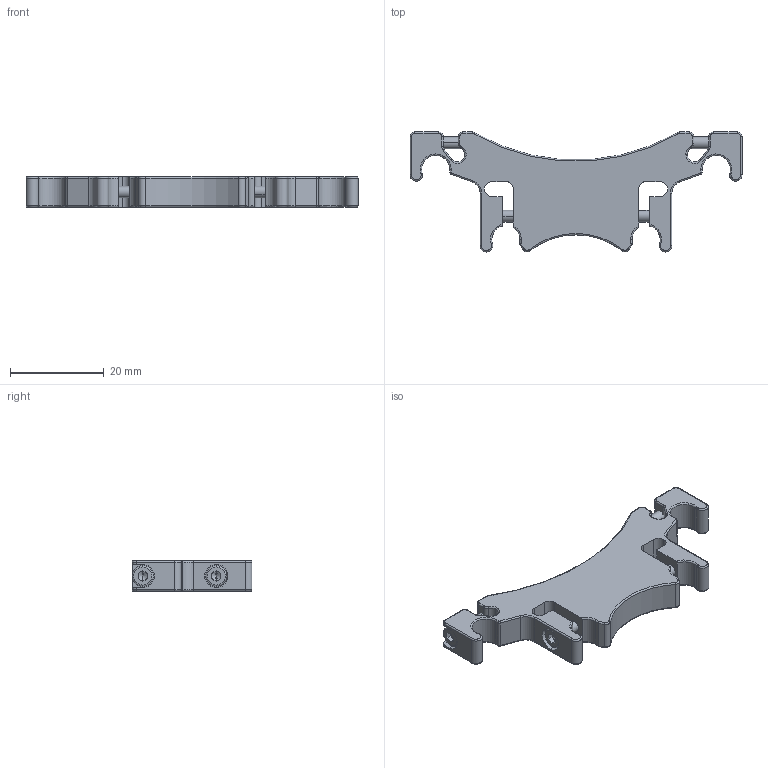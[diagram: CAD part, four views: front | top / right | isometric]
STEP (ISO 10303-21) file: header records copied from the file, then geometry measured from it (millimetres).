
FILE_DESCRIPTION (( 'STEP AP203' ), '1' );
FILE_NAME ('CSABQ-2.STEP', '2024-06-19T06:22:05', ( '' ), ( '' ), 'SwSTEP 2.0', 'SolidWorks 2021', '' );
FILE_SCHEMA (( 'CONFIG_CONTROL_DESIGN' ));
Length unit declared in the file: millimetre
Products named in the file (1): CSABQ-2
Bounding box: 71 x 25.65 x 6.5 mm (x, y, z)
Surface area: 4160.7 mm2 (no closed solid volume)
Topology: 0 solids, 12 shells, 369 faces, 1306 edges, 914 vertices
Faces by surface type: plane 137, cylinder 112, torus 82, bspline 22, cone 12, sphere 4
Entity records: 16225 total; most frequent: CARTESIAN_POINT 5202, DIRECTION 2270, ORIENTED_EDGE 2099, EDGE_CURVE 1294, VERTEX_POINT 914, VECTOR 766, LINE 766, AXIS2_PLACEMENT_3D 752
